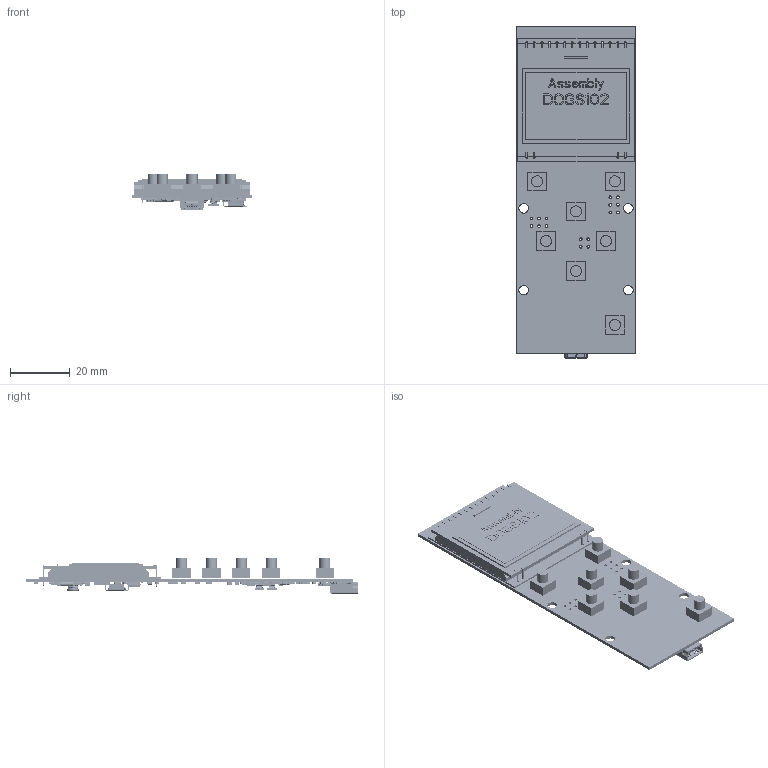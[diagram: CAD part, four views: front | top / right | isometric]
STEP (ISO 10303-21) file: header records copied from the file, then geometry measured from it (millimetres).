
FILE_DESCRIPTION(('Open CASCADE Model'),'2;1');
FILE_NAME('Open CASCADE Shape Model','2016-01-15T09:27:59',('Author'),( 'Open CASCADE'),'Open CASCADE STEP processor 6.2','Open CASCADE 6.2' ,'Unknown');
FILE_SCHEMA(('AUTOMOTIVE_DESIGN { 1 0 10303 214 1 1 1 1 }'));
Length unit declared in the file: millimetre
Products named in the file (147): PCB; Board; IC5; User_Library-SOT23-6-2; J1; 65100516121; Shielding; Insulator; Pin_1; D10; User_Library-SOD123; D7; WL-SMCW_1206_LED; housing; marking; cover; base; D2; D1; Z2; 44211; Z1; X3; User_Library-Siward_SX3215; X2; User_Library-tsx-3225-1; X1; S7; 419817104; Cylinder; 542310288; Extruded; S6; 464034968; S5; S4; S3; S2; S1; R22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
Assembly tree (240 placements, depth 4):
  PCB
    Board
    IC5
      User_Library-SOT23-6-2
    J1
      65100516121
        Shielding
        Insulator
        Pin_1  x5
    D10
      User_Library-SOD123
    D7
      WL-SMCW_1206_LED
        housing
        marking  x2
        cover
        base  x2
    D2
      WL-SMCW_1206_LED
        housing
        marking  x2
        cover
        base  x2
    D1
      WL-SMCW_1206_LED
        housing
        marking  x2
        cover
        base  x2
    Z2
      44211
      44211
      44211
    Z1
      44211
      44211
      44211
    X3
      User_Library-Siward_SX3215
    X2
      User_Library-tsx-3225-1
    X1
      User_Library-tsx-3225-1
    S7
      419817104
        Cylinder
      542310288
        Extruded
    S6
      464034968
        Cylinder
      542310288
        Extruded
    S5
      464034968
        Cylinder
      542310288
        Extruded
    S4
      464034968
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Bounding box: 40 x 111.06 x 11.9 mm (x, y, z)
Volume: 13187.4 mm3; surface area: 20730 mm2
Topology: 162 solids, 191 shells, 12945 faces, 29232 edges, 16507 vertices
Faces by surface type: plane 7972, bspline 2276, cylinder 2028, sphere 506, torus 161, cone 2
Full cylindrical faces by diameter (mm): 0.6 x14, 0.8 x2, 0.813 x18, 0.9 x16, 2 x1, 3.2 x4, 3.5 x1, 3.7 x7, 4 x3
Entity records: 413848 total; most frequent: CARTESIAN_POINT 125348, DIRECTION 49426, LINE 32922, VECTOR 32922, ORIENTED_EDGE 26636, PCURVE 26636, DEFINITIONAL_REPRESENTATION 26636, EDGE_CURVE 13800
